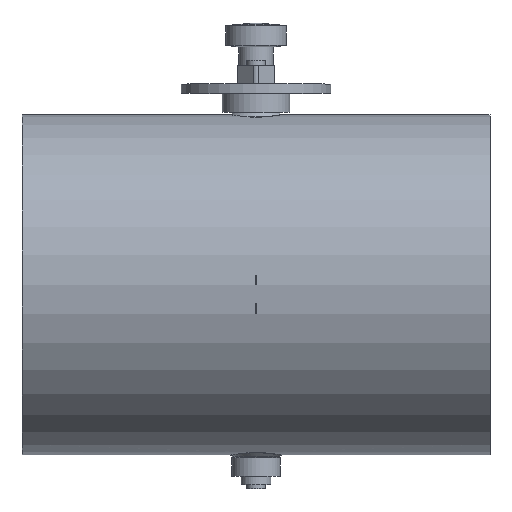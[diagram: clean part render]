
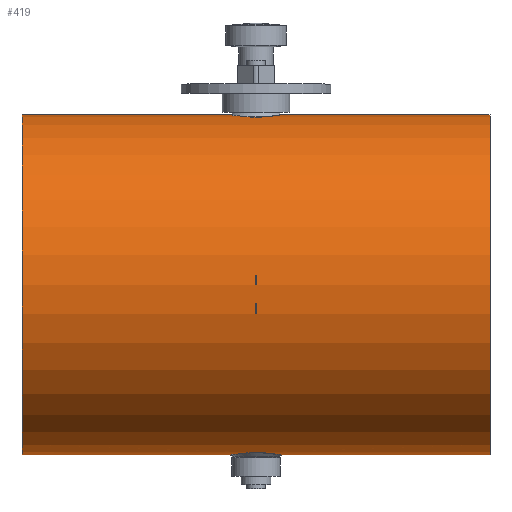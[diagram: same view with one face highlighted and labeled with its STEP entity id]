
A CAD part, top view. The second image highlights one B-rep face of the part: STEP entity #419.
In plain terms, the highlighted cylindrical face has radius 90.8 mm (diameter 181.6 mm), a full revolution.
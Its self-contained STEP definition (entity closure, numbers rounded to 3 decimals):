
#193=B_SPLINE_CURVE_WITH_KNOTS('',3,(#1837,#1838,#1839,#1840,#1841,#1842,
#1843,#1844,#1845,#1846,#1847,#1848,#1849,#1850,#1851,#1852,#1853,#1854,
#1855,#1856,#1857,#1858),.UNSPECIFIED.,.T.,.F.,(2,2,2,2,2,2,2,2,2,2,2,2,
2),(-0.063,0.,0.125,0.25,0.375,0.437,
0.5,0.625,0.75,0.875,
0.938,1.,1.125),.UNSPECIFIED.);
#194=B_SPLINE_CURVE_WITH_KNOTS('',3,(#1860,#1861,#1862,#1863,#1864,#1865,
#1866,#1867,#1868,#1869,#1870,#1871,#1872,#1873,#1874,#1875,#1876,#1877,
#1878,#1879,#1880,#1881),.UNSPECIFIED.,.T.,.F.,(2,2,2,2,2,2,2,2,2,2,2,2,
2),(-0.125,0.,0.062,0.125,0.25,0.375,
0.5,0.562,0.625,0.75,
0.875,1.,1.063),.UNSPECIFIED.);
#230=CYLINDRICAL_SURFACE('',#1304,90.8);
#277=FACE_BOUND('',#585,.T.);
#278=FACE_BOUND('',#586,.T.);
#279=FACE_BOUND('',#587,.T.);
#280=FACE_BOUND('',#588,.T.);
#419=ADVANCED_FACE('',(#277,#278,#279,#280),#230,.T.);
#585=EDGE_LOOP('',(#755));
#586=EDGE_LOOP('',(#756));
#587=EDGE_LOOP('',(#757));
#588=EDGE_LOOP('',(#758));
#755=ORIENTED_EDGE('',*,*,#1095,.T.);
#756=ORIENTED_EDGE('',*,*,#1096,.T.);
#757=ORIENTED_EDGE('',*,*,#1091,.T.);
#758=ORIENTED_EDGE('',*,*,#1093,.T.);
#985=VERTEX_POINT('',#1828);
#987=VERTEX_POINT('',#1833);
#989=VERTEX_POINT('',#1859);
#990=VERTEX_POINT('',#1882);
#1091=EDGE_CURVE('',#985,#985,#1213,.T.);
#1093=EDGE_CURVE('',#987,#987,#1215,.T.);
#1095=EDGE_CURVE('',#989,#989,#193,.T.);
#1096=EDGE_CURVE('',#990,#990,#194,.T.);
#1213=CIRCLE('',#1298,90.8);
#1215=CIRCLE('',#1301,90.8);
#1298=AXIS2_PLACEMENT_3D('',#1827,#1480,#1481);
#1301=AXIS2_PLACEMENT_3D('',#1832,#1486,#1487);
#1304=AXIS2_PLACEMENT_3D('',#1883,#1492,#1493);
#1480=DIRECTION('',(-1.,0.,0.));
#1481=DIRECTION('',(0.,0.,1.));
#1486=DIRECTION('',(1.,0.,0.));
#1487=DIRECTION('',(0.,0.,-1.));
#1492=DIRECTION('',(1.,0.,0.));
#1493=DIRECTION('',(0.,0.,-1.));
#1827=CARTESIAN_POINT('',(125.,-48.3,125.));
#1828=CARTESIAN_POINT('',(125.,-48.3,215.8));
#1832=CARTESIAN_POINT('',(-125.,-48.3,125.));
#1833=CARTESIAN_POINT('',(-125.,-48.3,34.2));
#1837=CARTESIAN_POINT('',(-2.298,-137.806,109.715));
#1838=CARTESIAN_POINT('',(-7.848,-138.111,111.573));
#1839=CARTESIAN_POINT('',(-10.853,-138.549,114.427));
#1840=CARTESIAN_POINT('',(-14.215,-139.092,121.339));
#1841=CARTESIAN_POINT('',(-14.602,-139.175,125.457));
#1842=CARTESIAN_POINT('',(-12.646,-138.833,132.889));
#1843=CARTESIAN_POINT('',(-10.282,-138.42,136.281));
#1844=CARTESIAN_POINT('',(-5.389,-137.969,139.326));
#1845=CARTESIAN_POINT('',(-3.54,-137.852,140.003));
#1846=CARTESIAN_POINT('',(0.316,-137.77,140.486));
#1847=CARTESIAN_POINT('',(2.284,-137.806,140.286));
#1848=CARTESIAN_POINT('',(7.813,-138.108,138.445));
#1849=CARTESIAN_POINT('',(10.832,-138.546,135.61));
#1850=CARTESIAN_POINT('',(14.228,-139.094,128.638));
#1851=CARTESIAN_POINT('',(14.605,-139.176,124.548));
#1852=CARTESIAN_POINT('',(12.639,-138.832,117.092));
#1853=CARTESIAN_POINT('',(10.262,-138.417,113.7));
#1854=CARTESIAN_POINT('',(5.375,-137.968,110.669));
#1855=CARTESIAN_POINT('',(3.504,-137.851,109.99));
#1856=CARTESIAN_POINT('',(-0.316,-137.77,109.517));
#1857=CARTESIAN_POINT('',(-2.298,-137.806,109.715));
#1858=CARTESIAN_POINT('',(-7.848,-138.111,111.573));
#1859=CARTESIAN_POINT('',(-4.148,-137.908,110.334));
#1860=CARTESIAN_POINT('',(-7.848,41.511,111.573));
#1861=CARTESIAN_POINT('',(-2.298,41.206,109.715));
#1862=CARTESIAN_POINT('',(-0.332,41.17,109.516));
#1863=CARTESIAN_POINT('',(3.497,41.251,109.988));
#1864=CARTESIAN_POINT('',(5.363,41.367,110.662));
#1865=CARTESIAN_POINT('',(10.275,41.818,113.707));
#1866=CARTESIAN_POINT('',(12.645,42.233,117.093));
#1867=CARTESIAN_POINT('',(14.61,42.577,124.589));
#1868=CARTESIAN_POINT('',(14.213,42.492,128.674));
#1869=CARTESIAN_POINT('',(10.84,41.947,135.59));
#1870=CARTESIAN_POINT('',(7.832,41.51,138.429));
#1871=CARTESIAN_POINT('',(2.322,41.207,140.279));
#1872=CARTESIAN_POINT('',(0.37,41.17,140.486));
#1873=CARTESIAN_POINT('',(-3.508,41.251,140.013));
#1874=CARTESIAN_POINT('',(-5.361,41.367,139.339));
#1875=CARTESIAN_POINT('',(-10.273,41.818,136.295));
#1876=CARTESIAN_POINT('',(-12.642,42.232,132.907));
#1877=CARTESIAN_POINT('',(-14.607,42.576,125.435));
#1878=CARTESIAN_POINT('',(-14.226,42.494,121.358));
#1879=CARTESIAN_POINT('',(-10.835,41.946,114.395));
#1880=CARTESIAN_POINT('',(-7.848,41.511,111.573));
#1881=CARTESIAN_POINT('',(-2.298,41.206,109.715));
#1882=CARTESIAN_POINT('',(-4.148,41.308,110.334));
#1883=CARTESIAN_POINT('',(-125.,-48.3,125.));
